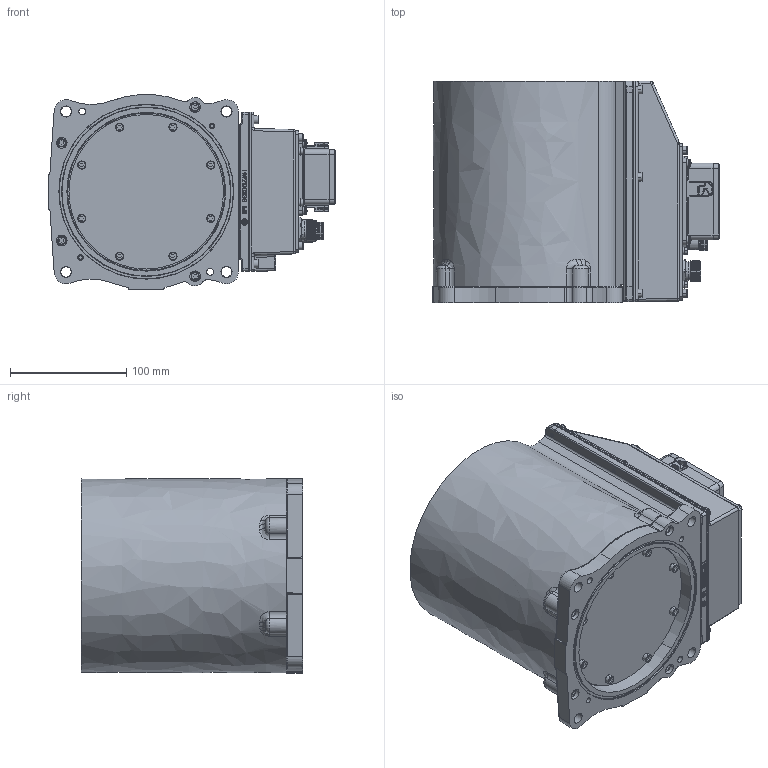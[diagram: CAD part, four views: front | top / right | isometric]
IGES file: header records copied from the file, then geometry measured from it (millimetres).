
Start section:  PTC IGES file: base_view_yr-n1-06vx4-c00.igs
Global section: file name: base_view_yr-n1-06vx4-c00.igs; native system: Creo Parametric by PTC Inc.; preprocessor: 2021072; author: iino20; organization: Unknown; date: 20250827.163358; units: millimetre
Bounding box: 246.65 x 190.5 x 167.53 mm (x, y, z)
Volume: 5228257.9 mm3; surface area: 241251.6 mm2
Topology: 1 solids, 10 shells, 2401 faces, 6013 edges, 3786 vertices
Faces by surface type: bspline 1390, revolution 1011
